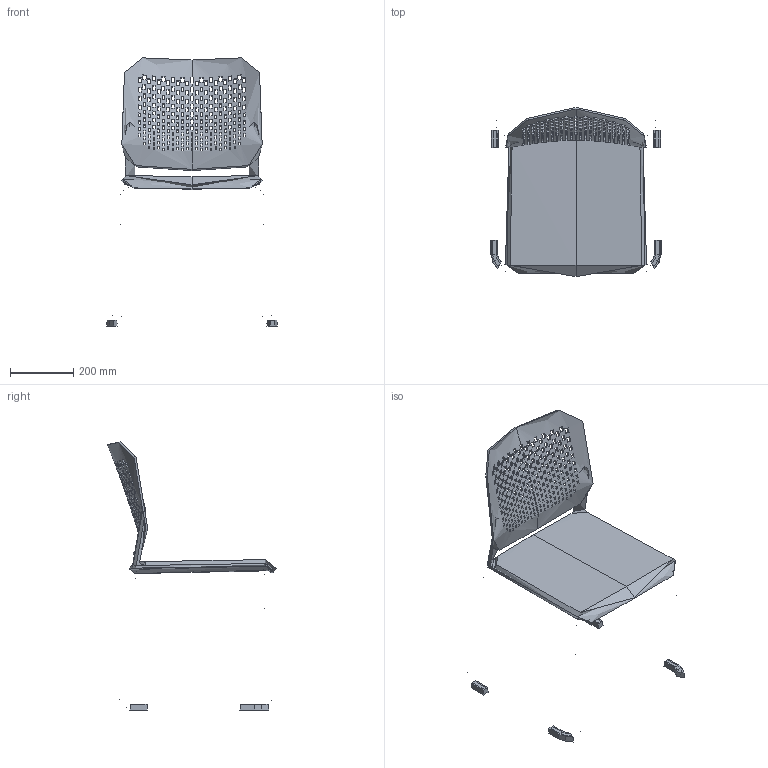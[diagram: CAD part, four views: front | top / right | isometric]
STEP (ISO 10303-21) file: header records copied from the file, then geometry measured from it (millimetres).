
FILE_DESCRIPTION(/* description */ (''),/* implementation_level */ '2;1');
FILE_NAME(/* name */ 'Time 161',/* time_stamp */ '2019-11-22T22:53:47+01:00',/* author */ (''),/* organization */ (''),/* preprocessor_version */ 'ST-DEVELOPER v16.5',/* originating_system */ '',/* authorisation */ '');
FILE_SCHEMA (('AUTOMOTIVE_DESIGN'));
Length unit declared in the file: millimetre
Products named in the file (1): Document
Bounding box: 537.92 x 533.25 x 846.75 mm (x, y, z)
Volume: 4581172.8 mm3; surface area: 1527801.1 mm2
Topology: 5 solids, 10 shells, 1105 faces, 3256 edges, 2137 vertices
Faces by surface type: bspline 619, plane 486
Entity records: 60837 total; most frequent: CARTESIAN_POINT 40010, ORIENTED_EDGE 6492, EDGE_CURVE 3253, B_SPLINE_CURVE_WITH_KNOTS 3102, VERTEX_POINT 2135, EDGE_LOOP 1553, ADVANCED_FACE 1105, FACE_OUTER_BOUND 1105
